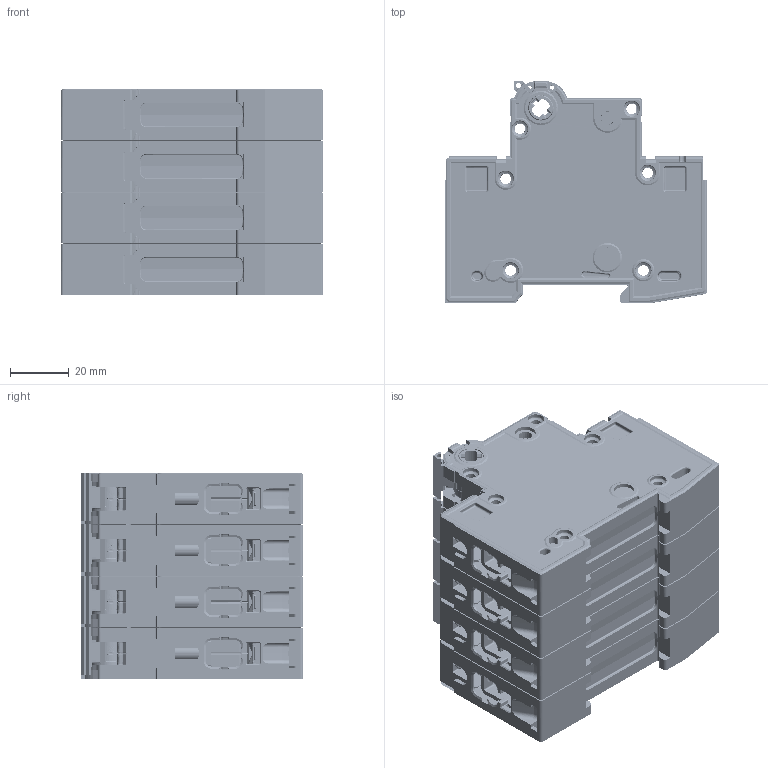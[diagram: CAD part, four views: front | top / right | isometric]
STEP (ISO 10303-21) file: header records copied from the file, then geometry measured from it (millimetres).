
FILE_DESCRIPTION (( 'STEP AP214' ), '1' );
FILE_NAME ('AVN-DC-63-4.step', '2011-07-20T13:27:59', ( 'Radek Veselý' ), ( 'Siemens and Partners' ), 'SwSTEP 2.0', 'SolidWorks 2006303', '' );
FILE_SCHEMA (( 'AUTOMOTIVE_DESIGN' ));
Length unit declared in the file: millimetre
Products named in the file (1): AVN-DC-63-4
Bounding box: 89.8 x 76.03 x 70.5 mm (x, y, z)
Volume: 160058.4 mm3; surface area: 161406.8 mm2
Topology: 28 solids, 36 shells, 15260 faces, 39164 edges, 24100 vertices
Faces by surface type: plane 6396, cylinder 4948, bspline 2668, cone 1248
Entity records: 796866 total; most frequent: CARTESIAN_POINT 311737, ORIENTED_EDGE 78280, DIRECTION 47238, EDGE_CURVE 39140, VERTEX_POINT 24100, B_SPLINE_CURVE_WITH_KNOTS 17284, LINE 16764, VECTOR 16764
